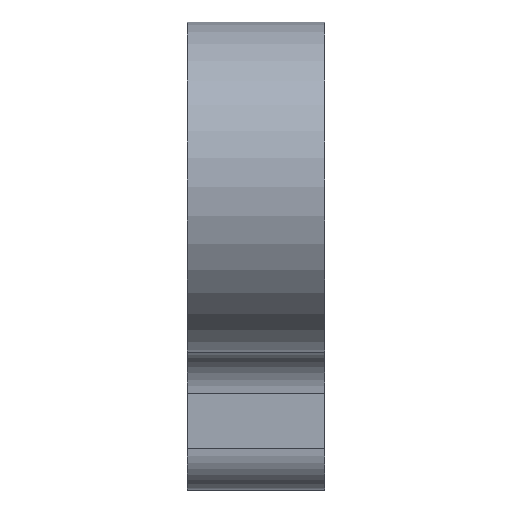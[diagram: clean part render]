
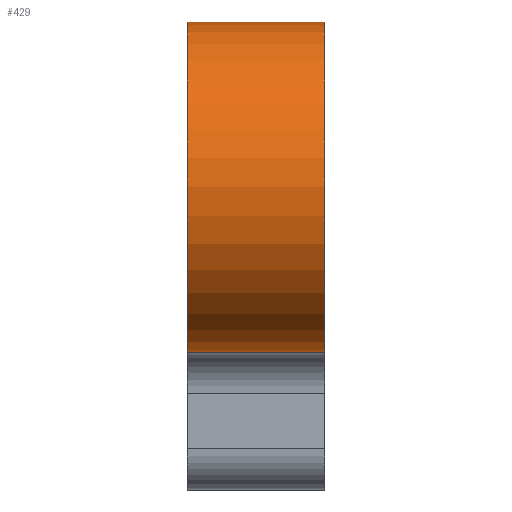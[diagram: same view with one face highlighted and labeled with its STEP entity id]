
A CAD part, left-side view. The second image highlights one B-rep face of the part: STEP entity #429.
In plain terms, the highlighted cylindrical face has radius 6 mm (diameter 12 mm), a partial arc.
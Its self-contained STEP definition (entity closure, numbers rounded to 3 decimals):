
#9 = FACE_OUTER_BOUND ( 'NONE', #357, .T. ) ;
#67 = ORIENTED_EDGE ( 'NONE', *, *, #741, .F. ) ;
#76 = DIRECTION ( 'NONE',  ( 0., 1., 0. ) ) ;
#78 = EDGE_CURVE ( 'NONE', #272, #422, #399, .T. ) ;
#102 = VERTEX_POINT ( 'NONE', #836 ) ;
#124 = VERTEX_POINT ( 'NONE', #771 ) ;
#146 = CARTESIAN_POINT ( 'NONE',  ( 0., 5., 0. ) ) ;
#192 = VECTOR ( 'NONE', #805, 1000. ) ;
#222 = DIRECTION ( 'NONE',  ( 0., 1., 0. ) ) ;
#238 = DIRECTION ( 'NONE',  ( 0., 0., -1. ) ) ;
#251 = EDGE_CURVE ( 'NONE', #102, #124, #520, .T. ) ;
#255 = AXIS2_PLACEMENT_3D ( 'NONE', #146, #76, #623 ) ;
#264 = CARTESIAN_POINT ( 'NONE',  ( 0., 0., -6. ) ) ;
#267 = CIRCLE ( 'NONE', #668, 6. ) ;
#272 = VERTEX_POINT ( 'NONE', #819 ) ;
#285 = CARTESIAN_POINT ( 'NONE',  ( 0., 5., 6. ) ) ;
#357 = EDGE_LOOP ( 'NONE', ( #437, #685, #67, #395 ) ) ;
#395 = ORIENTED_EDGE ( 'NONE', *, *, #78, .T. ) ;
#399 = LINE ( 'NONE', #777, #413 ) ;
#413 = VECTOR ( 'NONE', #524, 1000. ) ;
#422 = VERTEX_POINT ( 'NONE', #264 ) ;
#429 = ADVANCED_FACE ( 'NONE', ( #9 ), #657, .T. ) ;
#437 = ORIENTED_EDGE ( 'NONE', *, *, #580, .T. ) ;
#460 = CIRCLE ( 'NONE', #255, 6. ) ;
#520 = LINE ( 'NONE', #285, #192 ) ;
#524 = DIRECTION ( 'NONE',  ( 0., -1., 0. ) ) ;
#580 = EDGE_CURVE ( 'NONE', #422, #124, #267, .T. ) ;
#592 = DIRECTION ( 'NONE',  ( 0., -1., 0. ) ) ;
#623 = DIRECTION ( 'NONE',  ( 0., 0., 1. ) ) ;
#657 = CYLINDRICAL_SURFACE ( 'NONE', #669, 6. ) ;
#658 = CARTESIAN_POINT ( 'NONE',  ( 0., 5., 0. ) ) ;
#668 = AXIS2_PLACEMENT_3D ( 'NONE', #758, #222, #700 ) ;
#669 = AXIS2_PLACEMENT_3D ( 'NONE', #658, #592, #238 ) ;
#685 = ORIENTED_EDGE ( 'NONE', *, *, #251, .F. ) ;
#700 = DIRECTION ( 'NONE',  ( 0., 0., 1. ) ) ;
#741 = EDGE_CURVE ( 'NONE', #272, #102, #460, .T. ) ;
#758 = CARTESIAN_POINT ( 'NONE',  ( 0., 0., 0. ) ) ;
#771 = CARTESIAN_POINT ( 'NONE',  ( 0., 0., 6. ) ) ;
#777 = CARTESIAN_POINT ( 'NONE',  ( 0., 5., -6. ) ) ;
#805 = DIRECTION ( 'NONE',  ( 0., -1., 0. ) ) ;
#819 = CARTESIAN_POINT ( 'NONE',  ( 0., 5., -6. ) ) ;
#836 = CARTESIAN_POINT ( 'NONE',  ( 0., 5., 6. ) ) ;
